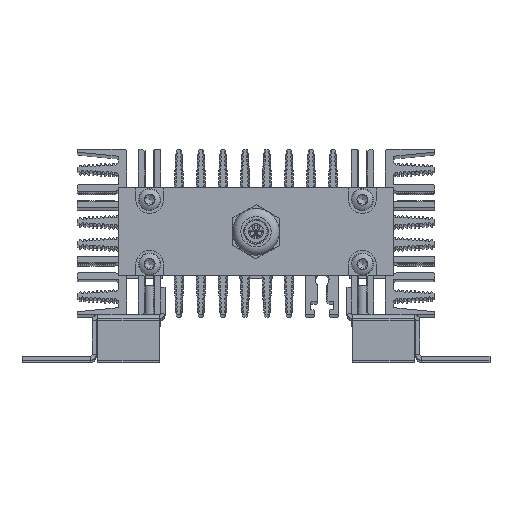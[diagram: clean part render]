
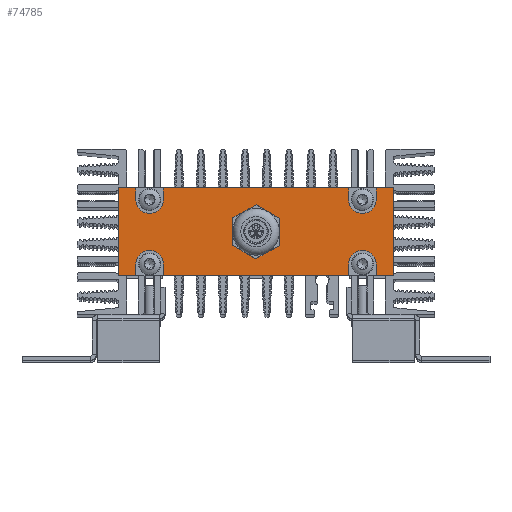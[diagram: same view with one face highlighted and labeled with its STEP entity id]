
A CAD part, top view. The second image highlights one B-rep face of the part: STEP entity #74785.
In plain terms, the highlighted planar face has unit normal (0, 0, 1).
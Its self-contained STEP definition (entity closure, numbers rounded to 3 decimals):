
#543=FACE_BOUND('',#9497,.T.);
#1950=PLANE('',#82564);
#5487=FACE_OUTER_BOUND('',#9496,.T.);
#9496=EDGE_LOOP('',(#65513,#65514,#65515,#65516,#65517,#65518,#65519,#65520,
#65521,#65522,#65523,#65524,#65525,#65526,#65527,#65528,#65529,#65530,#65531,
#65532));
#9497=EDGE_LOOP('',(#65533));
#16003=LINE('',#125889,#22656);
#16005=LINE('',#125893,#22658);
#16012=LINE('',#125914,#22665);
#16014=LINE('',#125918,#22667);
#16021=LINE('',#125939,#22674);
#16023=LINE('',#125943,#22676);
#16030=LINE('',#125964,#22683);
#16032=LINE('',#125968,#22685);
#16053=LINE('',#126045,#22706);
#16057=LINE('',#126054,#22710);
#16059=LINE('',#126057,#22712);
#16060=LINE('',#126058,#22713);
#16061=LINE('',#126059,#22714);
#16063=LINE('',#126062,#22716);
#16064=LINE('',#126063,#22717);
#16065=LINE('',#126064,#22718);
#22656=VECTOR('',#103266,1000.);
#22658=VECTOR('',#103270,1000.);
#22665=VECTOR('',#103289,1000.);
#22667=VECTOR('',#103293,1000.);
#22674=VECTOR('',#103312,1000.);
#22676=VECTOR('',#103316,1000.);
#22683=VECTOR('',#103335,1000.);
#22685=VECTOR('',#103339,1000.);
#22706=VECTOR('',#103408,1000.);
#22710=VECTOR('',#103414,1000.);
#22712=VECTOR('',#103418,1000.);
#22713=VECTOR('',#103419,1000.);
#22714=VECTOR('',#103420,1000.);
#22716=VECTOR('',#103424,1000.);
#22717=VECTOR('',#103425,1000.);
#22718=VECTOR('',#103426,1000.);
#27443=CIRCLE('',#82511,5.);
#27446=CIRCLE('',#82518,5.);
#27449=CIRCLE('',#82525,5.);
#27452=CIRCLE('',#82532,5.);
#27459=CIRCLE('',#82554,8.025);
#34240=VERTEX_POINT('',#125871);
#34241=VERTEX_POINT('',#125872);
#34247=VERTEX_POINT('',#125888);
#34248=VERTEX_POINT('',#125892);
#34249=VERTEX_POINT('',#125896);
#34250=VERTEX_POINT('',#125897);
#34256=VERTEX_POINT('',#125913);
#34257=VERTEX_POINT('',#125917);
#34258=VERTEX_POINT('',#125921);
#34259=VERTEX_POINT('',#125922);
#34265=VERTEX_POINT('',#125938);
#34266=VERTEX_POINT('',#125942);
#34267=VERTEX_POINT('',#125946);
#34268=VERTEX_POINT('',#125947);
#34274=VERTEX_POINT('',#125963);
#34275=VERTEX_POINT('',#125967);
#34294=VERTEX_POINT('',#126020);
#34300=VERTEX_POINT('',#126042);
#34301=VERTEX_POINT('',#126044);
#34304=VERTEX_POINT('',#126051);
#34305=VERTEX_POINT('',#126053);
#44789=EDGE_CURVE('',#34240,#34241,#27443,.T.);
#44797=EDGE_CURVE('',#34241,#34247,#16003,.T.);
#44799=EDGE_CURVE('',#34248,#34240,#16005,.T.);
#44801=EDGE_CURVE('',#34249,#34250,#27446,.T.);
#44809=EDGE_CURVE('',#34250,#34256,#16012,.T.);
#44811=EDGE_CURVE('',#34257,#34249,#16014,.T.);
#44813=EDGE_CURVE('',#34258,#34259,#27449,.T.);
#44821=EDGE_CURVE('',#34259,#34265,#16021,.T.);
#44823=EDGE_CURVE('',#34266,#34258,#16023,.T.);
#44825=EDGE_CURVE('',#34267,#34268,#27452,.T.);
#44833=EDGE_CURVE('',#34268,#34274,#16030,.T.);
#44835=EDGE_CURVE('',#34275,#34267,#16032,.T.);
#44861=EDGE_CURVE('',#34294,#34294,#27459,.T.);
#44871=EDGE_CURVE('',#34301,#34300,#16053,.T.);
#44875=EDGE_CURVE('',#34304,#34305,#16057,.T.);
#44877=EDGE_CURVE('',#34305,#34257,#16059,.T.);
#44878=EDGE_CURVE('',#34256,#34266,#16060,.T.);
#44879=EDGE_CURVE('',#34265,#34300,#16061,.T.);
#44881=EDGE_CURVE('',#34275,#34247,#16063,.T.);
#44882=EDGE_CURVE('',#34248,#34301,#16064,.T.);
#44883=EDGE_CURVE('',#34304,#34274,#16065,.T.);
#65513=ORIENTED_EDGE('',*,*,#44825,.F.);
#65514=ORIENTED_EDGE('',*,*,#44835,.F.);
#65515=ORIENTED_EDGE('',*,*,#44881,.T.);
#65516=ORIENTED_EDGE('',*,*,#44797,.F.);
#65517=ORIENTED_EDGE('',*,*,#44789,.F.);
#65518=ORIENTED_EDGE('',*,*,#44799,.F.);
#65519=ORIENTED_EDGE('',*,*,#44882,.T.);
#65520=ORIENTED_EDGE('',*,*,#44871,.T.);
#65521=ORIENTED_EDGE('',*,*,#44879,.F.);
#65522=ORIENTED_EDGE('',*,*,#44821,.F.);
#65523=ORIENTED_EDGE('',*,*,#44813,.F.);
#65524=ORIENTED_EDGE('',*,*,#44823,.F.);
#65525=ORIENTED_EDGE('',*,*,#44878,.F.);
#65526=ORIENTED_EDGE('',*,*,#44809,.F.);
#65527=ORIENTED_EDGE('',*,*,#44801,.F.);
#65528=ORIENTED_EDGE('',*,*,#44811,.F.);
#65529=ORIENTED_EDGE('',*,*,#44877,.F.);
#65530=ORIENTED_EDGE('',*,*,#44875,.F.);
#65531=ORIENTED_EDGE('',*,*,#44883,.T.);
#65532=ORIENTED_EDGE('',*,*,#44833,.F.);
#65533=ORIENTED_EDGE('',*,*,#44861,.F.);
#74785=ADVANCED_FACE('',(#5487,#543),#1950,.F.);
#82511=AXIS2_PLACEMENT_3D('',#125873,#103251,#103252);
#82518=AXIS2_PLACEMENT_3D('',#125898,#103274,#103275);
#82525=AXIS2_PLACEMENT_3D('',#125923,#103297,#103298);
#82532=AXIS2_PLACEMENT_3D('',#125948,#103320,#103321);
#82554=AXIS2_PLACEMENT_3D('',#126022,#103387,#103388);
#82564=AXIS2_PLACEMENT_3D('',#126061,#103422,#103423);
#103251=DIRECTION('center_axis',(0.,0.,1.));
#103252=DIRECTION('ref_axis',(1.,0.,0.));
#103266=DIRECTION('',(0.,1.,0.));
#103270=DIRECTION('',(0.,-1.,0.));
#103274=DIRECTION('center_axis',(0.,0.,1.));
#103275=DIRECTION('ref_axis',(1.,0.,0.));
#103289=DIRECTION('',(0.,-1.,0.));
#103293=DIRECTION('',(0.,1.,0.));
#103297=DIRECTION('center_axis',(0.,0.,1.));
#103298=DIRECTION('ref_axis',(1.,0.,0.));
#103312=DIRECTION('',(0.,-1.,0.));
#103316=DIRECTION('',(0.,1.,0.));
#103320=DIRECTION('center_axis',(0.,0.,1.));
#103321=DIRECTION('ref_axis',(1.,0.,0.));
#103335=DIRECTION('',(0.,1.,0.));
#103339=DIRECTION('',(0.,-1.,0.));
#103387=DIRECTION('center_axis',(0.,0.,1.));
#103388=DIRECTION('ref_axis',(1.,0.,0.));
#103408=DIRECTION('',(0.,-1.,0.));
#103414=DIRECTION('',(0.,-1.,0.));
#103418=DIRECTION('',(-1.,0.,0.));
#103419=DIRECTION('',(-1.,0.,0.));
#103420=DIRECTION('',(-1.,0.,0.));
#103422=DIRECTION('center_axis',(0.,0.,-1.));
#103423=DIRECTION('ref_axis',(0.,-1.,0.));
#103424=DIRECTION('',(-1.,0.,0.));
#103425=DIRECTION('',(-1.,0.,0.));
#103426=DIRECTION('',(-1.,0.,0.));
#125871=CARTESIAN_POINT('',(-43.65,11.7,323.55));
#125872=CARTESIAN_POINT('',(-33.65,11.7,323.55));
#125873=CARTESIAN_POINT('Origin',(-38.65,11.7,323.55));
#125888=CARTESIAN_POINT('',(-33.65,16.,323.55));
#125889=CARTESIAN_POINT('',(-33.65,11.7,323.55));
#125892=CARTESIAN_POINT('',(-43.65,16.,323.55));
#125893=CARTESIAN_POINT('',(-43.65,11.7,323.55));
#125896=CARTESIAN_POINT('',(43.65,-11.7,323.55));
#125897=CARTESIAN_POINT('',(33.65,-11.7,323.55));
#125898=CARTESIAN_POINT('Origin',(38.65,-11.7,323.55));
#125913=CARTESIAN_POINT('',(33.65,-16.,323.55));
#125914=CARTESIAN_POINT('',(33.65,-11.7,323.55));
#125917=CARTESIAN_POINT('',(43.65,-16.,323.55));
#125918=CARTESIAN_POINT('',(43.65,-11.7,323.55));
#125921=CARTESIAN_POINT('',(-33.65,-11.7,323.55));
#125922=CARTESIAN_POINT('',(-43.65,-11.7,323.55));
#125923=CARTESIAN_POINT('Origin',(-38.65,-11.7,323.55));
#125938=CARTESIAN_POINT('',(-43.65,-16.,323.55));
#125939=CARTESIAN_POINT('',(-43.65,-11.7,323.55));
#125942=CARTESIAN_POINT('',(-33.65,-16.,323.55));
#125943=CARTESIAN_POINT('',(-33.65,-11.7,323.55));
#125946=CARTESIAN_POINT('',(33.65,11.7,323.55));
#125947=CARTESIAN_POINT('',(43.65,11.7,323.55));
#125948=CARTESIAN_POINT('Origin',(38.65,11.7,323.55));
#125963=CARTESIAN_POINT('',(43.65,16.,323.55));
#125964=CARTESIAN_POINT('',(43.65,11.7,323.55));
#125967=CARTESIAN_POINT('',(33.65,16.,323.55));
#125968=CARTESIAN_POINT('',(33.65,11.7,323.55));
#126020=CARTESIAN_POINT('',(-8.025,0.,323.55));
#126022=CARTESIAN_POINT('Origin',(0.,0.,323.55));
#126042=CARTESIAN_POINT('',(-50.,-16.,323.55));
#126044=CARTESIAN_POINT('',(-50.,16.,323.55));
#126045=CARTESIAN_POINT('',(-50.,16.,323.55));
#126051=CARTESIAN_POINT('',(50.,16.,323.55));
#126053=CARTESIAN_POINT('',(50.,-16.,323.55));
#126054=CARTESIAN_POINT('',(50.,16.,323.55));
#126057=CARTESIAN_POINT('',(50.,-16.,323.55));
#126058=CARTESIAN_POINT('',(50.,-16.,323.55));
#126059=CARTESIAN_POINT('',(50.,-16.,323.55));
#126061=CARTESIAN_POINT('Origin',(50.,16.,323.55));
#126062=CARTESIAN_POINT('',(50.,16.,323.55));
#126063=CARTESIAN_POINT('',(50.,16.,323.55));
#126064=CARTESIAN_POINT('',(50.,16.,323.55));
